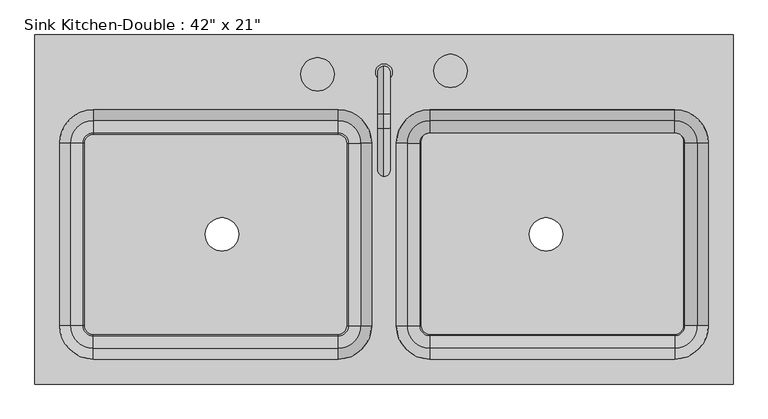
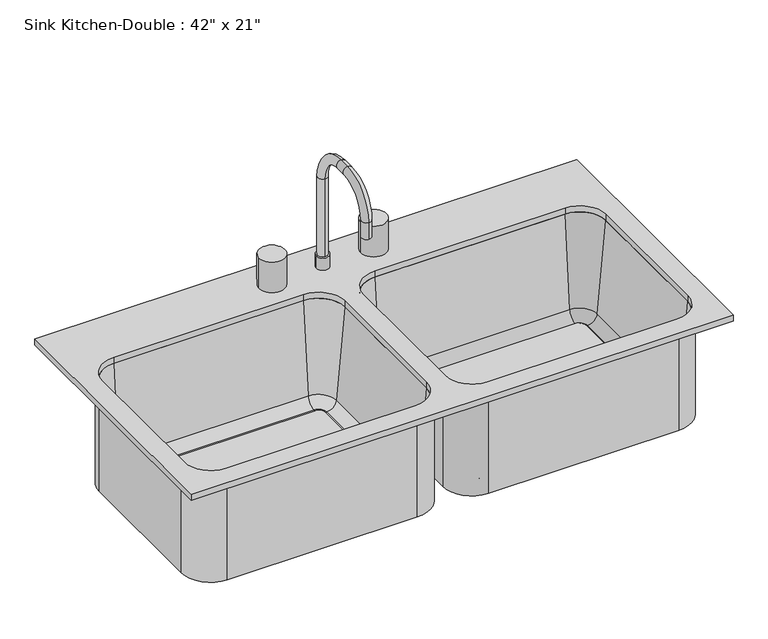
"""IFC4 building model written with IfcOpenShell, lengths in millimetres: flow terminal geometry."""

from ifc_helpers import new_model, si_unit, point, frame, frame_2d, origin, place, context, project, spatial, polyline, circle_curve, ellipse_curve, trimmed, segment, composite_curve, outline, extrude, source, transform, mapped, element, save
from ifc_brep_helpers import plane_surface, cylinder_surface, revolved_surface, advanced_brep


def flow_terminal_be612caf(model_context):
    return source(origin(), model_context, "Body", "SolidModel", [
        extrude(outline(composite_curve([segment(trimmed(circle_curve(frame_2d((460.1892406, 106.5338193)), 12.7), [point((460.1892406, 119.2338193))], [point((472.8892406, 106.5338193))], False, "CARTESIAN"), True, "CONTINUOUS"), segment(polyline([(472.8892406, 106.5338193), (472.8892406, -175.4545989)]), True, "CONTINUOUS"), segment(trimmed(circle_curve(frame_2d((460.1892406, -175.4545989)), 12.7), [point((472.8892406, -175.4545989))], [point((460.1892406, -188.1545989))], False, "CARTESIAN"), True, "CONTINUOUS"), segment(polyline([(460.1892406, -188.1545989), (85.5392406, -188.1545989)]), True, "CONTINUOUS"), segment(trimmed(circle_curve(frame_2d((85.5392406, -175.4545989)), 12.7), [point((85.5392406, -188.1545989))], [point((72.8392406, -175.4545989))], False, "CARTESIAN"), True, "CONTINUOUS"), segment(polyline([(72.8392406, -175.4545989), (72.8392406, 106.5338193)]), True, "CONTINUOUS"), segment(trimmed(circle_curve(frame_2d((85.5392406, 106.5338193)), 12.7), [point((72.8392406, 106.5338193))], [point((85.5392406, 119.2338193))], False, "CARTESIAN"), True, "CONTINUOUS"), segment(polyline([(85.5392406, 119.2338193), (460.1892406, 119.2338193)]), True, "CONTINUOUS")], self_intersect=False), holes=[composite_curve([segment(trimmed(circle_curve(frame_2d((263.3392406, -35.7545989)), 25.4), [point((237.9392406, -35.7545989))], [point((288.7392406, -35.7545989))], True, "CARTESIAN"), True, "CONTINUOUS"), segment(trimmed(circle_curve(frame_2d((263.3392406, -35.7545989)), 25.4), [point((288.7392406, -35.7545989))], [point((237.9392406, -35.7545989))], True, "CARTESIAN"), True, "CONTINUOUS")], self_intersect=False)]), frame((0.0, 0.0, 698.5), z_axis=(0.0, 0.0, 1.0), x_axis=(1.0, 0.0, 0.0)), (0.0, 0.0, 1.0), 9.525),
        advanced_brep(
        [(34.7392406, 103.9454011, 914.4), (85.5392406, 154.7454011, 914.4), (85.5392406, 161.0954011, 914.4), (28.3892406, 103.9454011, 914.4), (51.2733134, 103.9454011, 725.4146831), (85.5392406, 138.2113283, 725.4146831), (70.2508224, 103.9454011, 708.025), (85.5392406, 119.2338193, 708.025), (72.8392406, 103.9454011, 708.025), (85.5392406, 116.6454011, 708.025), (72.8392406, 103.9454011, 698.5), (85.5392406, 116.6454011, 698.5), (28.3892406, 103.9454011, 698.5), (85.5392406, 161.0954011, 698.5), (28.3892406, -175.4545989, 914.4), (34.7392406, -175.4545989, 914.4), (51.2733134, -175.4545989, 725.4146831), (70.2508224, -175.4545989, 708.025), (72.8392406, -175.4545989, 708.025), (72.8392406, -175.4545989, 698.5), (28.3892406, -175.4545989, 698.5), (85.5392406, -226.2545989, 914.4), (85.5392406, -232.6045989, 914.4), (85.5392406, -209.7205261, 725.4146831), (85.5392406, -190.7430171, 708.025), (85.5392406, -188.1545989, 708.025), (85.5392406, -188.1545989, 698.5), (85.5392406, -232.6045989, 698.5), (460.1892406, -232.6045989, 914.4), (460.1892406, -226.2545989, 914.4), (460.1892406, -209.7205261, 725.4146831), (460.1892406, -190.7430171, 708.025), (460.1892406, -188.1545989, 708.025), (460.1892406, -188.1545989, 698.5), (460.1892406, -232.6045989, 698.5), (510.9892406, -175.4545989, 914.4), (517.3392406, -175.4545989, 914.4), (494.4551678, -175.4545989, 725.4146831), (475.4776588, -175.4545989, 708.025), (472.8892406, -175.4545989, 708.025), (472.8892406, -175.4545989, 698.5), (517.3392406, -175.4545989, 698.5), (517.3392406, 103.9454011, 914.4), (510.9892406, 103.9454011, 914.4), (494.4551678, 103.9454011, 725.4146831), (475.4776588, 103.9454011, 708.025), (472.8892406, 103.9454011, 708.025), (472.8892406, 103.9454011, 698.5), (517.3392406, 103.9454011, 698.5), (460.1892406, 154.7454011, 914.4), (460.1892406, 161.0954011, 914.4), (460.1892406, 138.2113283, 725.4146831), (460.1892406, 119.2338193, 708.025), (460.1892406, 116.6454011, 708.025), (460.1892406, 116.6454011, 698.5), (460.1892406, 161.0954011, 698.5)],
        [
            (0, 1, circle_curve(frame((85.5392406, 103.9454011, 914.4), z_axis=(0.0, 0.0, -1.0), x_axis=(0.0, 1.0, 0.0)), 50.8)),
            (1, 2),
            (2, 3, circle_curve(frame((85.5392406, 103.9454011, 914.4), z_axis=(0.0, 0.0, 1.0), x_axis=(0.0, 1.0, 0.0)), 57.15)),
            (3, 0),
            (4, 5, circle_curve(frame((85.5392406, 103.9454011, 725.4146831), z_axis=(0.0, 0.0, -1.0), x_axis=(0.0, 1.0, 0.0)), 34.2659272)),
            (5, 1),
            (0, 4),
            (6, 7, circle_curve(frame((85.5392406, 103.9454011, 708.025), z_axis=(0.0, 0.0, -1.0), x_axis=(0.0, 1.0, 0.0)), 15.2884182)),
            (7, 5, circle_curve(frame((85.5392406, 119.2338193, 727.075), z_axis=(1.0, 0.0, 0.0), x_axis=(0.0, -1.0, 0.0)), 19.05)),
            (4, 6, circle_curve(frame((70.2508224, 103.9454011, 727.075), z_axis=(0.0, -1.0, 0.0), x_axis=(1.0, 0.0, 0.0)), 19.05)),
            (8, 9, circle_curve(frame((85.5392406, 103.9454011, 708.025), z_axis=(0.0, 0.0, -1.0), x_axis=(0.0, 1.0, 0.0)), 12.7)),
            (9, 7),
            (6, 8),
            (10, 11, circle_curve(frame((85.5392406, 103.9454011, 698.5), z_axis=(0.0, 0.0, -1.0), x_axis=(0.0, 1.0, 0.0)), 12.7)),
            (11, 9),
            (8, 10),
            (12, 13, circle_curve(frame((85.5392406, 103.9454011, 698.5), z_axis=(0.0, 0.0, -1.0), x_axis=(0.0, 1.0, 0.0)), 57.15)),
            (13, 11),
            (10, 12),
            (2, 13),
            (12, 3),
            (3, 14),
            (14, 15),
            (15, 0),
            (15, 16),
            (16, 4),
            (16, 17, circle_curve(frame((70.2508224, -175.4545989, 727.075), z_axis=(0.0, -1.0, 0.0), x_axis=(1.0, 0.0, 0.0)), 19.05)),
            (17, 6),
            (17, 18),
            (18, 8),
            (18, 19),
            (19, 10),
            (19, 20),
            (20, 12),
            (20, 14),
            (21, 15, circle_curve(frame((85.5392406, -175.4545989, 914.4), z_axis=(0.0, 0.0, -1.0), x_axis=(-1.0, 0.0, 0.0)), 50.8)),
            (14, 22, circle_curve(frame((85.5392406, -175.4545989, 914.4), z_axis=(0.0, 0.0, 1.0), x_axis=(-1.0, 0.0, 0.0)), 57.15)),
            (22, 21),
            (23, 16, circle_curve(frame((85.5392406, -175.4545989, 725.4146831), z_axis=(0.0, 0.0, -1.0), x_axis=(-1.0, 0.0, 0.0)), 34.2659272)),
            (21, 23),
            (24, 17, circle_curve(frame((85.5392406, -175.4545989, 708.025), z_axis=(0.0, 0.0, -1.0), x_axis=(-1.0, 0.0, 0.0)), 15.2884182)),
            (23, 24, circle_curve(frame((85.5392406, -190.7430171, 727.075), z_axis=(1.0, 0.0, 0.0), x_axis=(0.0, 1.0, 0.0)), 19.05)),
            (25, 18, circle_curve(frame((85.5392406, -175.4545989, 708.025), z_axis=(0.0, 0.0, -1.0), x_axis=(-1.0, 0.0, 0.0)), 12.7)),
            (24, 25),
            (26, 19, circle_curve(frame((85.5392406, -175.4545989, 698.5), z_axis=(0.0, 0.0, -1.0), x_axis=(-1.0, 0.0, 0.0)), 12.7)),
            (25, 26),
            (27, 20, circle_curve(frame((85.5392406, -175.4545989, 698.5), z_axis=(0.0, 0.0, -1.0), x_axis=(-1.0, 0.0, 0.0)), 57.15)),
            (26, 27),
            (27, 22),
            (22, 28),
            (28, 29),
            (29, 21),
            (29, 30),
            (30, 23),
            (30, 31, circle_curve(frame((460.1892406, -190.7430171, 727.075), z_axis=(1.0, 0.0, 0.0), x_axis=(0.0, 1.0, 0.0)), 19.05)),
            (31, 24),
            (31, 32),
            (32, 25),
            (32, 33),
            (33, 26),
            (33, 34),
            (34, 27),
            (34, 28),
            (35, 29, circle_curve(frame((460.1892406, -175.4545989, 914.4), z_axis=(0.0, 0.0, -1.0), x_axis=(0.0, -1.0, 0.0)), 50.8)),
            (28, 36, circle_curve(frame((460.1892406, -175.4545989, 914.4), z_axis=(0.0, 0.0, 1.0), x_axis=(0.0, -1.0, 0.0)), 57.15)),
            (36, 35),
            (37, 30, circle_curve(frame((460.1892406, -175.4545989, 725.4146831), z_axis=(0.0, 0.0, -1.0), x_axis=(0.0, -1.0, 0.0)), 34.2659272)),
            (35, 37),
            (38, 31, circle_curve(frame((460.1892406, -175.4545989, 708.025), z_axis=(0.0, 0.0, -1.0), x_axis=(0.0, -1.0, 0.0)), 15.2884182)),
            (37, 38, circle_curve(frame((475.4776588, -175.4545989, 727.075), z_axis=(0.0, 1.0, 0.0), x_axis=(-1.0, 0.0, 0.0)), 19.05)),
            (39, 32, circle_curve(frame((460.1892406, -175.4545989, 708.025), z_axis=(0.0, 0.0, -1.0), x_axis=(0.0, -1.0, 0.0)), 12.7)),
            (38, 39),
            (40, 33, circle_curve(frame((460.1892406, -175.4545989, 698.5), z_axis=(0.0, 0.0, -1.0), x_axis=(0.0, -1.0, 0.0)), 12.7)),
            (39, 40),
            (41, 34, circle_curve(frame((460.1892406, -175.4545989, 698.5), z_axis=(0.0, 0.0, -1.0), x_axis=(0.0, -1.0, 0.0)), 57.15)),
            (40, 41),
            (41, 36),
            (36, 42),
            (42, 43),
            (43, 35),
            (43, 44),
            (44, 37),
            (44, 45, circle_curve(frame((475.4776588, 103.9454011, 727.075), z_axis=(0.0, 1.0, 0.0), x_axis=(-1.0, 0.0, 0.0)), 19.05)),
            (45, 38),
            (45, 46),
            (46, 39),
            (46, 47),
            (47, 40),
            (47, 48),
            (48, 41),
            (48, 42),
            (49, 43, circle_curve(frame((460.1892406, 103.9454011, 914.4), z_axis=(0.0, 0.0, -1.0), x_axis=(1.0, 0.0, 0.0)), 50.8)),
            (42, 50, circle_curve(frame((460.1892406, 103.9454011, 914.4), z_axis=(0.0, 0.0, 1.0), x_axis=(1.0, 0.0, 0.0)), 57.15)),
            (50, 49),
            (51, 44, circle_curve(frame((460.1892406, 103.9454011, 725.4146831), z_axis=(0.0, 0.0, -1.0), x_axis=(1.0, 0.0, 0.0)), 34.2659272)),
            (49, 51),
            (52, 45, circle_curve(frame((460.1892406, 103.9454011, 708.025), z_axis=(0.0, 0.0, -1.0), x_axis=(1.0, 0.0, 0.0)), 15.2884182)),
            (51, 52, circle_curve(frame((460.1892406, 119.2338193, 727.075), z_axis=(-1.0, 0.0, 0.0), x_axis=(0.0, -1.0, 0.0)), 19.05)),
            (53, 46, circle_curve(frame((460.1892406, 103.9454011, 708.025), z_axis=(0.0, 0.0, -1.0), x_axis=(1.0, 0.0, 0.0)), 12.7)),
            (52, 53),
            (54, 47, circle_curve(frame((460.1892406, 103.9454011, 698.5), z_axis=(0.0, 0.0, -1.0), x_axis=(1.0, 0.0, 0.0)), 12.7)),
            (53, 54),
            (55, 48, circle_curve(frame((460.1892406, 103.9454011, 698.5), z_axis=(0.0, 0.0, -1.0), x_axis=(1.0, 0.0, 0.0)), 57.15)),
            (54, 55),
            (55, 50),
            (50, 2),
            (1, 49),
            (5, 51),
            (7, 52),
            (9, 53),
            (11, 54),
            (13, 55),
        ],
        [
            plane_surface(frame((85.5392406, 103.9454011, 914.4), z_axis=(0.0, 0.0, 1.0), x_axis=(0.0, 1.0, 0.0))),
            revolved_surface(polyline([(85.5392406, 154.7454011, 914.4), (85.5392406, 138.2113283, 725.4146831)]), (85.5392406, 103.9454011, 0.0), (0.0, 0.0, 1.0)),
            revolved_surface(trimmed(ellipse_curve(frame((85.5392406, 119.2338193, 727.075), z_axis=(-1.0, 0.0, 0.0), x_axis=(0.0, -1.0, 0.0)), 19.05, 19.05), [point((85.5392406, 138.2113283, 725.4146831))], [point((85.5392406, 119.2338193, 708.025))], True, "CARTESIAN"), (85.5392406, 103.9454011, 0.0), (0.0, 0.0, 1.0)),
            plane_surface(frame((85.5392406, 103.9454011, 708.025), z_axis=(0.0, 0.0, 1.0), x_axis=(0.0, 1.0, 0.0))),
            revolved_surface(polyline([(85.5392406, 116.6454011, 708.025), (85.5392406, 116.6454011, 698.5)]), (85.5392406, 103.9454011, 0.0), (0.0, 0.0, 1.0)),
            plane_surface(frame((85.5392406, 103.9454011, 698.5), z_axis=(0.0, 0.0, -1.0), x_axis=(0.0, 1.0, 0.0))),
            cylinder_surface(frame((85.5392406, 103.9454011, 0.0), z_axis=(0.0, 0.0, 1.0), x_axis=(0.0, 1.0, 0.0)), 57.15),
            plane_surface(frame((28.3892406, 103.9454011, 914.4), z_axis=(0.0, 0.0, 1.0), x_axis=(0.0, -1.0, 0.0))),
            plane_surface(frame((34.7392406, 103.9454011, 914.4), z_axis=(0.996194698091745, 0.0, 0.08715574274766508), x_axis=(0.0, -1.0, 0.0))),
            revolved_surface(polyline([(89.3008224, -175.45459889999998, 727.075), (89.3008224, 103.9454011, 727.075)]), (70.2508224, 103.9454011, 727.075), (0.0, -1.0, 0.0)),
            plane_surface(frame((70.2508224, 103.9454011, 708.025), z_axis=(0.0, 0.0, 1.0), x_axis=(0.0, -1.0, 0.0))),
            plane_surface(frame((72.8392406, 103.9454011, 708.025), z_axis=(1.0, 0.0, 0.0), x_axis=(0.0, -1.0, 0.0))),
            plane_surface(frame((72.8392406, 103.9454011, 698.5), z_axis=(0.0, 0.0, -1.0), x_axis=(0.0, -1.0, 0.0))),
            plane_surface(frame((28.3892406, 103.9454011, 698.5), z_axis=(-1.0, 0.0, 0.0), x_axis=(0.0, -1.0, 0.0))),
            plane_surface(frame((85.5392406, -175.4545989, 914.4), z_axis=(0.0, 0.0, 1.0), x_axis=(-1.0, 0.0, 0.0))),
            revolved_surface(polyline([(34.7392406, -175.4545989, 914.4), (51.2733134, -175.4545989, 725.4146831)]), (85.5392406, -175.4545989, 0.0), (0.0, 0.0, 1.0)),
            revolved_surface(trimmed(ellipse_curve(frame((70.2508224, -175.4545989, 727.075), z_axis=(0.0, -1.0, 0.0), x_axis=(1.0, 0.0, 0.0)), 19.05, 19.05), [point((51.2733134, -175.4545989, 725.4146831))], [point((70.2508224, -175.4545989, 708.025))], True, "CARTESIAN"), (85.5392406, -175.4545989, 0.0), (0.0, 0.0, 1.0)),
            plane_surface(frame((85.5392406, -175.4545989, 708.025), z_axis=(0.0, 0.0, 1.0), x_axis=(-1.0, 0.0, 0.0))),
            revolved_surface(polyline([(72.8392406, -175.4545989, 708.025), (72.8392406, -175.4545989, 698.5)]), (85.5392406, -175.4545989, 0.0), (0.0, 0.0, 1.0)),
            plane_surface(frame((85.5392406, -175.4545989, 698.5), z_axis=(0.0, 0.0, -1.0), x_axis=(-1.0, 0.0, 0.0))),
            cylinder_surface(frame((85.5392406, -175.4545989, 0.0), z_axis=(0.0, 0.0, 1.0), x_axis=(-1.0, 0.0, 0.0)), 57.15),
            plane_surface(frame((85.5392406, -232.6045989, 914.4), z_axis=(0.0, 0.0, 1.0), x_axis=(1.0, 0.0, 0.0))),
            plane_surface(frame((85.5392406, -226.2545989, 914.4), z_axis=(0.0, 0.996194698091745, 0.08715574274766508), x_axis=(1.0, 0.0, 0.0))),
            revolved_surface(polyline([(460.18924059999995, -171.6930171, 727.075), (85.5392406, -171.6930171, 727.075)]), (85.5392406, -190.7430171, 727.075), (1.0, 0.0, 0.0)),
            plane_surface(frame((85.5392406, -190.7430171, 708.025), z_axis=(0.0, 0.0, 1.0), x_axis=(1.0, 0.0, 0.0))),
            plane_surface(frame((85.5392406, -188.1545989, 708.025), z_axis=(0.0, 1.0, 0.0), x_axis=(1.0, 0.0, 0.0))),
            plane_surface(frame((85.5392406, -188.1545989, 698.5), z_axis=(0.0, 0.0, -1.0), x_axis=(1.0, 0.0, 0.0))),
            plane_surface(frame((85.5392406, -232.6045989, 698.5), z_axis=(0.0, -1.0, 0.0), x_axis=(1.0, 0.0, 0.0))),
            plane_surface(frame((460.1892406, -175.4545989, 914.4), z_axis=(0.0, 0.0, 1.0), x_axis=(0.0, -1.0, 0.0))),
            revolved_surface(polyline([(460.1892406, -226.2545989, 914.4), (460.1892406, -209.7205261, 725.4146831)]), (460.1892406, -175.4545989, 0.0), (0.0, 0.0, 1.0)),
            revolved_surface(trimmed(ellipse_curve(frame((460.1892406, -190.7430171, 727.075), z_axis=(1.0, 0.0, 0.0), x_axis=(0.0, 1.0, 0.0)), 19.05, 19.05), [point((460.1892406, -209.7205261, 725.4146831))], [point((460.1892406, -190.7430171, 708.025))], True, "CARTESIAN"), (460.1892406, -175.4545989, 0.0), (0.0, 0.0, 1.0)),
            plane_surface(frame((460.1892406, -175.4545989, 708.025), z_axis=(0.0, 0.0, 1.0), x_axis=(0.0, -1.0, 0.0))),
            revolved_surface(polyline([(460.1892406, -188.1545989, 708.025), (460.1892406, -188.1545989, 698.5)]), (460.1892406, -175.4545989, 0.0), (0.0, 0.0, 1.0)),
            plane_surface(frame((460.1892406, -175.4545989, 698.5), z_axis=(0.0, 0.0, -1.0), x_axis=(0.0, -1.0, 0.0))),
            cylinder_surface(frame((460.1892406, -175.4545989, 0.0), z_axis=(0.0, 0.0, 1.0), x_axis=(0.0, -1.0, 0.0)), 57.15),
            plane_surface(frame((517.3392406, -175.4545989, 914.4), z_axis=(0.0, 0.0, 1.0), x_axis=(0.0, 1.0, 0.0))),
            plane_surface(frame((510.9892406, -175.4545989, 914.4), z_axis=(-0.996194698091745, 0.0, 0.08715574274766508), x_axis=(0.0, 1.0, 0.0))),
            revolved_surface(polyline([(456.42765879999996, 103.94540109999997, 727.075), (456.42765879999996, -175.4545989, 727.075)]), (475.4776588, -175.4545989, 727.075), (0.0, 1.0, 0.0)),
            plane_surface(frame((475.4776588, -175.4545989, 708.025), z_axis=(0.0, 0.0, 1.0), x_axis=(0.0, 1.0, 0.0))),
            plane_surface(frame((472.8892406, -175.4545989, 708.025), z_axis=(-1.0, 0.0, 0.0), x_axis=(0.0, 1.0, 0.0))),
            plane_surface(frame((472.8892406, -175.4545989, 698.5), z_axis=(0.0, 0.0, -1.0), x_axis=(0.0, 1.0, 0.0))),
            plane_surface(frame((517.3392406, -175.4545989, 698.5), z_axis=(1.0, 0.0, 0.0), x_axis=(0.0, 1.0, 0.0))),
            plane_surface(frame((460.1892406, 103.9454011, 914.4), z_axis=(0.0, 0.0, 1.0), x_axis=(1.0, 0.0, 0.0))),
            revolved_surface(polyline([(510.9892406, 103.9454011, 914.4), (494.4551678, 103.9454011, 725.4146831)]), (460.1892406, 103.9454011, 0.0), (0.0, 0.0, 1.0)),
            revolved_surface(trimmed(ellipse_curve(frame((475.4776588, 103.9454011, 727.075), z_axis=(0.0, 1.0, 0.0), x_axis=(-1.0, 0.0, 0.0)), 19.05, 19.05), [point((494.4551678, 103.9454011, 725.4146831))], [point((475.4776588, 103.9454011, 708.025))], True, "CARTESIAN"), (460.1892406, 103.9454011, 0.0), (0.0, 0.0, 1.0)),
            plane_surface(frame((460.1892406, 103.9454011, 708.025), z_axis=(0.0, 0.0, 1.0), x_axis=(1.0, 0.0, 0.0))),
            revolved_surface(polyline([(472.8892406, 103.9454011, 708.025), (472.8892406, 103.9454011, 698.5)]), (460.1892406, 103.9454011, 0.0), (0.0, 0.0, 1.0)),
            plane_surface(frame((460.1892406, 103.9454011, 698.5), z_axis=(0.0, 0.0, -1.0), x_axis=(1.0, 0.0, 0.0))),
            cylinder_surface(frame((460.1892406, 103.9454011, 0.0), z_axis=(0.0, 0.0, 1.0), x_axis=(1.0, 0.0, 0.0)), 57.15),
            plane_surface(frame((460.1892406, 161.0954011, 914.4), z_axis=(0.0, 0.0, 1.0), x_axis=(-1.0, 0.0, 0.0))),
            plane_surface(frame((460.1892406, 154.7454011, 914.4), z_axis=(0.0, -0.996194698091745, 0.08715574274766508), x_axis=(-1.0, 0.0, 0.0))),
            revolved_surface(polyline([(85.53924060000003, 100.1838193, 727.075), (460.1892406, 100.1838193, 727.075)]), (460.1892406, 119.2338193, 727.075), (-1.0, 0.0, 0.0)),
            plane_surface(frame((460.1892406, 119.2338193, 708.025), z_axis=(0.0, 0.0, 1.0), x_axis=(-1.0, 0.0, 0.0))),
            plane_surface(frame((460.1892406, 116.6454011, 708.025), z_axis=(0.0, -1.0, 0.0), x_axis=(-1.0, 0.0, 0.0))),
            plane_surface(frame((460.1892406, 116.6454011, 698.5), z_axis=(0.0, 0.0, -1.0), x_axis=(-1.0, 0.0, 0.0))),
            plane_surface(frame((460.1892406, 161.0954011, 698.5), z_axis=(0.0, 1.0, 0.0), x_axis=(-1.0, 0.0, 0.0))),
        ],
        [
            (0, [[1, 2, 3, 4]]),
            (1, [[5, 6, -1, 7]]),
            (2, [[8, 9, -5, 10]]),
            (3, [[11, 12, -8, 13]]),
            (4, [[14, 15, -11, 16]]),
            (5, [[17, 18, -14, 19]]),
            (6, [[-3, 20, -17, 21]]),
            (7, [[-4, 22, 23, 24]]),
            (8, [[-7, -24, 25, 26]]),
            (9, [[-10, -26, 27, 28]]),
            (10, [[-13, -28, 29, 30]]),
            (11, [[-16, -30, 31, 32]]),
            (12, [[-19, -32, 33, 34]]),
            (13, [[-21, -34, 35, -22]]),
            (14, [[36, -23, 37, 38]]),
            (15, [[39, -25, -36, 40]]),
            (16, [[41, -27, -39, 42]]),
            (17, [[43, -29, -41, 44]]),
            (18, [[45, -31, -43, 46]]),
            (19, [[47, -33, -45, 48]]),
            (20, [[-37, -35, -47, 49]]),
            (21, [[-38, 50, 51, 52]]),
            (22, [[-40, -52, 53, 54]]),
            (23, [[-42, -54, 55, 56]]),
            (24, [[-44, -56, 57, 58]]),
            (25, [[-46, -58, 59, 60]]),
            (26, [[-48, -60, 61, 62]]),
            (27, [[-49, -62, 63, -50]]),
            (28, [[64, -51, 65, 66]]),
            (29, [[67, -53, -64, 68]]),
            (30, [[69, -55, -67, 70]]),
            (31, [[71, -57, -69, 72]]),
            (32, [[73, -59, -71, 74]]),
            (33, [[75, -61, -73, 76]]),
            (34, [[-65, -63, -75, 77]]),
            (35, [[-66, 78, 79, 80]]),
            (36, [[-68, -80, 81, 82]]),
            (37, [[-70, -82, 83, 84]]),
            (38, [[-72, -84, 85, 86]]),
            (39, [[-74, -86, 87, 88]]),
            (40, [[-76, -88, 89, 90]]),
            (41, [[-77, -90, 91, -78]]),
            (42, [[92, -79, 93, 94]]),
            (43, [[95, -81, -92, 96]]),
            (44, [[97, -83, -95, 98]]),
            (45, [[99, -85, -97, 100]]),
            (46, [[101, -87, -99, 102]]),
            (47, [[103, -89, -101, 104]]),
            (48, [[-93, -91, -103, 105]]),
            (49, [[-94, 106, -2, 107]]),
            (50, [[-96, -107, -6, 108]]),
            (51, [[-98, -108, -9, 109]]),
            (52, [[-100, -109, -12, 110]]),
            (53, [[-102, -110, -15, 111]]),
            (54, [[-104, -111, -18, 112]]),
            (55, [[-105, -112, -20, -106]]),
        ],
    ),
        extrude(outline(composite_curve([segment(trimmed(circle_curve(frame_2d((15.6892406, 211.8954011)), 12.7), [point((2.9892406, 211.8954011))], [point((28.3892406, 211.8954011))], False, "CARTESIAN"), True, "CONTINUOUS"), segment(trimmed(circle_curve(frame_2d((15.6892406, 211.8954011)), 12.7), [point((28.3892406, 211.8954011))], [point((2.9892406, 211.8954011))], False, "CARTESIAN"), True, "CONTINUOUS")], self_intersect=False)), frame((0.0, 0.0, 927.1), z_axis=(0.0, 0.0, 1.0), x_axis=(1.0, 0.0, 0.0)), (0.0, 0.0, 1.0), 25.4),
        advanced_brep(
        [(15.6892406, 221.4204011, 927.1), (15.6892406, 202.3704011, 927.1), (15.6892406, 221.4204011, 1114.425), (15.6892406, 202.3704011, 1114.425), (15.6892406, 148.3954011, 1168.4), (15.6892406, 148.3954011, 1187.45), (15.6892406, 126.1704011, 1187.45), (15.6892406, 126.1704011, 1168.4), (15.6892406, 72.1954011, 1114.425), (15.6892406, 53.1454011, 1114.425), (15.6892406, 53.1454011, 1079.5), (15.6892406, 72.1954011, 1079.5)],
        [
            (0, 1, circle_curve(frame((15.6892406, 211.8954011, 927.1), z_axis=(0.0, 0.0, -1.0), x_axis=(0.0, -1.0, 0.0)), 9.525)),
            (1, 0, circle_curve(frame((15.6892406, 211.8954011, 927.1), z_axis=(0.0, 0.0, -1.0), x_axis=(0.0, -1.0, 0.0)), 9.525)),
            (0, 2),
            (2, 3, circle_curve(frame((15.6892406, 211.8954011, 1114.425), z_axis=(0.0, 0.0, -1.0), x_axis=(0.0, -1.0, 0.0)), 9.525)),
            (3, 1),
            (3, 2, circle_curve(frame((15.6892406, 211.8954011, 1114.425), z_axis=(0.0, 0.0, -1.0), x_axis=(0.0, -1.0, 0.0)), 9.525)),
            (4, 3, circle_curve(frame((15.6892406, 148.3954011, 1114.425), z_axis=(-1.0, 0.0, 0.0), x_axis=(0.0, 1.0, 0.0)), 53.975)),
            (2, 5, circle_curve(frame((15.6892406, 148.3954011, 1114.425), z_axis=(1.0, 0.0, 0.0), x_axis=(0.0, 1.0, 0.0)), 73.025)),
            (5, 4, circle_curve(frame((15.6892406, 148.3954011, 1177.925), z_axis=(0.0, 1.0, 0.0), x_axis=(0.0, 0.0, -1.0)), 9.525)),
            (4, 5, circle_curve(frame((15.6892406, 148.3954011, 1177.925), z_axis=(0.0, 1.0, 0.0), x_axis=(0.0, 0.0, -1.0)), 9.525)),
            (5, 6),
            (6, 7, circle_curve(frame((15.6892406, 126.1704011, 1177.925), z_axis=(0.0, 1.0, 0.0), x_axis=(0.0, 0.0, -1.0)), 9.525)),
            (7, 4),
            (7, 6, circle_curve(frame((15.6892406, 126.1704011, 1177.925), z_axis=(0.0, 1.0, 0.0), x_axis=(0.0, 0.0, -1.0)), 9.525)),
            (8, 7, circle_curve(frame((15.6892406, 126.1704011, 1114.425), z_axis=(-1.0, 0.0, 0.0), x_axis=(0.0, 0.0, 1.0)), 53.975)),
            (6, 9, circle_curve(frame((15.6892406, 126.1704011, 1114.425), z_axis=(1.0, 0.0, 0.0), x_axis=(0.0, 0.0, 1.0)), 73.025)),
            (9, 8, circle_curve(frame((15.6892406, 62.6704011, 1114.425), z_axis=(0.0, 0.0, 1.0), x_axis=(0.0, 1.0, 0.0)), 9.525)),
            (8, 9, circle_curve(frame((15.6892406, 62.6704011, 1114.425), z_axis=(0.0, 0.0, 1.0), x_axis=(0.0, 1.0, 0.0)), 9.525)),
            (10, 11, circle_curve(frame((15.6892406, 62.6704011, 1079.5), z_axis=(0.0, 0.0, -1.0), x_axis=(0.0, 1.0, 0.0)), 9.525)),
            (11, 10, circle_curve(frame((15.6892406, 62.6704011, 1079.5), z_axis=(0.0, 0.0, -1.0), x_axis=(0.0, 1.0, 0.0)), 9.525)),
            (9, 10),
            (11, 8),
        ],
        [
            plane_surface(frame((15.6892406, 202.3704011, 927.1), z_axis=(0.0, 0.0, -1.0), x_axis=(1.0, 0.0, 0.0))),
            cylinder_surface(frame((15.6892406, 211.8954011, 927.1), z_axis=(0.0, 0.0, -1.0), x_axis=(0.0, -1.0, 0.0)), 9.525),
            revolved_surface(trimmed(ellipse_curve(frame((15.6892406, 211.8954011, 1114.425), z_axis=(0.0, 0.0, -1.0), x_axis=(0.0, -1.0, 0.0)), 9.525, 9.525), [point((15.6892406, 221.4204011, 1114.425))], [point((15.6892406, 202.3704011, 1114.425))], True, "CARTESIAN"), (15.6892406, 148.3954011, 1114.425), (1.0, 0.0, 0.0)),
            revolved_surface(trimmed(ellipse_curve(frame((15.6892406, 211.8954011, 1114.425), z_axis=(0.0, 0.0, -1.0), x_axis=(0.0, -1.0, 0.0)), 9.525, 9.525), [point((15.6892406, 202.3704011, 1114.425))], [point((15.6892406, 221.4204011, 1114.425))], True, "CARTESIAN"), (15.6892406, 148.3954011, 1114.425), (1.0, 0.0, 0.0)),
            cylinder_surface(frame((15.6892406, 148.3954011, 1177.925), z_axis=(0.0, 1.0, 0.0), x_axis=(0.0, 0.0, -1.0)), 9.525),
            revolved_surface(trimmed(ellipse_curve(frame((15.6892406, 126.1704011, 1177.925), z_axis=(0.0, 1.0, 0.0), x_axis=(0.0, 0.0, -1.0)), 9.525, 9.525), [point((15.6892406, 126.1704011, 1187.45))], [point((15.6892406, 126.1704011, 1168.4))], True, "CARTESIAN"), (15.6892406, 126.1704011, 1114.425), (1.0, 0.0, 0.0)),
            revolved_surface(trimmed(ellipse_curve(frame((15.6892406, 126.1704011, 1177.925), z_axis=(0.0, 1.0, 0.0), x_axis=(0.0, 0.0, -1.0)), 9.525, 9.525), [point((15.6892406, 126.1704011, 1168.4))], [point((15.6892406, 126.1704011, 1187.45))], True, "CARTESIAN"), (15.6892406, 126.1704011, 1114.425), (1.0, 0.0, 0.0)),
            plane_surface(frame((15.6892406, 53.1454011, 1079.5), z_axis=(0.0, 0.0, -1.0), x_axis=(-1.0, 0.0, 0.0))),
            cylinder_surface(frame((15.6892406, 62.6704011, 1114.425), z_axis=(0.0, 0.0, 1.0), x_axis=(0.0, 1.0, 0.0)), 9.525),
        ],
        [
            (0, [[1, 2]]),
            (1, [[-1, 3, 4, 5]]),
            (1, [[-2, -5, 6, -3]]),
            (2, [[7, -4, 8, 9]]),
            (3, [[-8, -6, -7, 10]]),
            (4, [[-9, 11, 12, 13]]),
            (4, [[-10, -13, 14, -11]]),
            (5, [[15, -12, 16, 17]]),
            (6, [[-16, -14, -15, 18]]),
            (7, [[19, 20]]),
            (8, [[-17, 21, -20, 22]]),
            (8, [[-18, -22, -19, -21]]),
        ],
    ),
        extrude(outline(composite_curve([segment(trimmed(circle_curve(frame_2d((-85.9107594, 208.8166076)), 25.4), [point((-111.3107594, 208.8166076))], [point((-60.5107594, 208.8166076))], False, "CARTESIAN"), True, "CONTINUOUS"), segment(trimmed(circle_curve(frame_2d((-85.9107594, 208.8166076)), 25.4), [point((-60.5107594, 208.8166076))], [point((-111.3107594, 208.8166076))], False, "CARTESIAN"), True, "CONTINUOUS")], self_intersect=False)), frame((0.0, 0.0, 927.1), z_axis=(0.0, 0.0, 1.0), x_axis=(1.0, 0.0, 0.0)), (0.0, 0.0, 1.0), 63.5),
        extrude(outline(composite_curve([segment(trimmed(circle_curve(frame_2d((117.2892406, 214.0133323)), 25.4), [point((91.8892406, 214.0133323))], [point((142.6892406, 214.0133323))], False, "CARTESIAN"), True, "CONTINUOUS"), segment(trimmed(circle_curve(frame_2d((117.2892406, 214.0133323)), 25.4), [point((142.6892406, 214.0133323))], [point((91.8892406, 214.0133323))], False, "CARTESIAN"), True, "CONTINUOUS")], self_intersect=False)), frame((0.0, 0.0, 927.1), z_axis=(0.0, 0.0, 1.0), x_axis=(1.0, 0.0, 0.0)), (0.0, 0.0, 1.0), 63.5),
        extrude(outline(composite_curve([segment(trimmed(circle_curve(frame_2d((-54.1607594, 103.9454011)), 12.7), [point((-54.1607594, 116.6454011))], [point((-41.4607594, 103.9454011))], False, "CARTESIAN"), True, "CONTINUOUS"), segment(polyline([(-41.4607594, 103.9454011), (-41.4607594, -175.4545989)]), True, "CONTINUOUS"), segment(trimmed(circle_curve(frame_2d((-54.1607594, -175.4545989)), 12.7), [point((-41.4607594, -175.4545989))], [point((-54.1607594, -188.1545989))], False, "CARTESIAN"), True, "CONTINUOUS"), segment(polyline([(-54.1607594, -188.1545989), (-428.8107594, -188.1545989)]), True, "CONTINUOUS"), segment(trimmed(circle_curve(frame_2d((-428.8107594, -175.4545989)), 12.7), [point((-428.8107594, -188.1545989))], [point((-441.5107594, -175.4545989))], False, "CARTESIAN"), True, "CONTINUOUS"), segment(polyline([(-441.5107594, -175.4545989), (-441.5107594, 103.9454011)]), True, "CONTINUOUS"), segment(trimmed(circle_curve(frame_2d((-428.8107594, 103.9454011)), 12.7), [point((-441.5107594, 103.9454011))], [point((-428.8107594, 116.6454011))], False, "CARTESIAN"), True, "CONTINUOUS"), segment(polyline([(-428.8107594, 116.6454011), (-54.1607594, 116.6454011)]), True, "CONTINUOUS")], self_intersect=False), holes=[composite_curve([segment(trimmed(circle_curve(frame_2d((-231.9607594, -35.7545989)), 25.4), [point((-257.3607594, -35.7545989))], [point((-206.5607594, -35.7545989))], True, "CARTESIAN"), True, "CONTINUOUS"), segment(trimmed(circle_curve(frame_2d((-231.9607594, -35.7545989)), 25.4), [point((-206.5607594, -35.7545989))], [point((-257.3607594, -35.7545989))], True, "CARTESIAN"), True, "CONTINUOUS")], self_intersect=False)]), frame((0.0, 0.0, 698.5), z_axis=(0.0, 0.0, 1.0), x_axis=(1.0, 0.0, 0.0)), (0.0, 0.0, 1.0), 9.525),
        advanced_brep(
        [(2.9892406, 103.9454011, 698.5), (-54.1607594, 161.0954011, 698.5), (-54.1607594, 161.0954011, 914.4), (2.9892406, 103.9454011, 914.4), (-41.4607594, 103.9454011, 698.5), (-54.1607594, 116.6454011, 698.5), (-41.4607594, 103.9454011, 708.025), (-54.1607594, 116.6454011, 708.025), (-38.8723412, 103.9454011, 708.025), (-54.1607594, 119.2338193, 708.025), (-19.8948322, 103.9454011, 725.4146831), (-54.1607594, 138.2113283, 725.4146831), (-3.3607594, 103.9454011, 914.4), (-54.1607594, 154.7454011, 914.4), (2.9892406, -175.4545989, 914.4), (2.9892406, -175.4545989, 698.5), (-41.4607594, -175.4545989, 698.5), (-41.4607594, -175.4545989, 708.025), (-38.8723412, -175.4545989, 708.025), (-19.8948322, -175.4545989, 725.4146831), (-3.3607594, -175.4545989, 914.4), (-54.1607594, -232.6045989, 698.5), (-54.1607594, -232.6045989, 914.4), (-54.1607594, -188.1545989, 698.5), (-54.1607594, -188.1545989, 708.025), (-54.1607594, -190.7430171, 708.025), (-54.1607594, -209.7205261, 725.4146831), (-54.1607594, -226.2545989, 914.4), (-428.8107594, -232.6045989, 914.4), (-428.8107594, -232.6045989, 698.5), (-428.8107594, -188.1545989, 698.5), (-428.8107594, -188.1545989, 708.025), (-428.8107594, -190.7430171, 708.025), (-428.8107594, -209.7205261, 725.4146831), (-428.8107594, -226.2545989, 914.4), (-485.9607594, -175.4545989, 698.5), (-485.9607594, -175.4545989, 914.4), (-441.5107594, -175.4545989, 698.5), (-441.5107594, -175.4545989, 708.025), (-444.0991776, -175.4545989, 708.025), (-463.0766866, -175.4545989, 725.4146831), (-479.6107594, -175.4545989, 914.4), (-485.9607594, 103.9454011, 914.4), (-485.9607594, 103.9454011, 698.5), (-441.5107594, 103.9454011, 698.5), (-441.5107594, 103.9454011, 708.025), (-444.0991776, 103.9454011, 708.025), (-463.0766866, 103.9454011, 725.4146831), (-479.6107594, 103.9454011, 914.4), (-428.8107594, 161.0954011, 698.5), (-428.8107594, 161.0954011, 914.4), (-428.8107594, 116.6454011, 698.5), (-428.8107594, 116.6454011, 708.025), (-428.8107594, 119.2338193, 708.025), (-428.8107594, 138.2113283, 725.4146831), (-428.8107594, 154.7454011, 914.4)],
        [
            (0, 1, circle_curve(frame((-54.1607594, 103.9454011, 698.5), z_axis=(0.0, 0.0, 1.0), x_axis=(0.0, 1.0, 0.0)), 57.15)),
            (1, 2),
            (2, 3, circle_curve(frame((-54.1607594, 103.9454011, 914.4), z_axis=(0.0, 0.0, -1.0), x_axis=(0.0, 1.0, 0.0)), 57.15)),
            (3, 0),
            (4, 5, circle_curve(frame((-54.1607594, 103.9454011, 698.5), z_axis=(0.0, 0.0, 1.0), x_axis=(0.0, 1.0, 0.0)), 12.7)),
            (5, 1),
            (0, 4),
            (6, 7, circle_curve(frame((-54.1607594, 103.9454011, 708.025), z_axis=(0.0, 0.0, 1.0), x_axis=(0.0, 1.0, 0.0)), 12.7)),
            (7, 5),
            (4, 6),
            (8, 9, circle_curve(frame((-54.1607594, 103.9454011, 708.025), z_axis=(0.0, 0.0, 1.0), x_axis=(0.0, 1.0, 0.0)), 15.2884182)),
            (9, 7),
            (6, 8),
            (10, 11, circle_curve(frame((-54.1607594, 103.9454011, 725.4146831), z_axis=(0.0, 0.0, 1.0), x_axis=(0.0, 1.0, 0.0)), 34.2659272)),
            (11, 9, circle_curve(frame((-54.1607594, 119.2338193, 727.075), z_axis=(-1.0, 0.0, 0.0), x_axis=(0.0, 1.0, 0.0)), 19.05)),
            (8, 10, circle_curve(frame((-38.8723412, 103.9454011, 727.075), z_axis=(0.0, -1.0, 0.0), x_axis=(1.0, 0.0, 0.0)), 19.05)),
            (12, 13, circle_curve(frame((-54.1607594, 103.9454011, 914.4), z_axis=(0.0, 0.0, 1.0), x_axis=(0.0, 1.0, 0.0)), 50.8)),
            (13, 11),
            (10, 12),
            (2, 13),
            (12, 3),
            (3, 14),
            (14, 15),
            (15, 0),
            (15, 16),
            (16, 4),
            (16, 17),
            (17, 6),
            (17, 18),
            (18, 8),
            (18, 19, circle_curve(frame((-38.8723412, -175.4545989, 727.075), z_axis=(0.0, -1.0, 0.0), x_axis=(1.0, 0.0, 0.0)), 19.05)),
            (19, 10),
            (19, 20),
            (20, 12),
            (20, 14),
            (21, 15, circle_curve(frame((-54.1607594, -175.4545989, 698.5), z_axis=(0.0, 0.0, 1.0), x_axis=(1.0, 0.0, 0.0)), 57.15)),
            (14, 22, circle_curve(frame((-54.1607594, -175.4545989, 914.4), z_axis=(0.0, 0.0, -1.0), x_axis=(1.0, 0.0, 0.0)), 57.15)),
            (22, 21),
            (23, 16, circle_curve(frame((-54.1607594, -175.4545989, 698.5), z_axis=(0.0, 0.0, 1.0), x_axis=(1.0, 0.0, 0.0)), 12.7)),
            (21, 23),
            (24, 17, circle_curve(frame((-54.1607594, -175.4545989, 708.025), z_axis=(0.0, 0.0, 1.0), x_axis=(1.0, 0.0, 0.0)), 12.7)),
            (23, 24),
            (25, 18, circle_curve(frame((-54.1607594, -175.4545989, 708.025), z_axis=(0.0, 0.0, 1.0), x_axis=(1.0, 0.0, 0.0)), 15.2884182)),
            (24, 25),
            (26, 19, circle_curve(frame((-54.1607594, -175.4545989, 725.4146831), z_axis=(0.0, 0.0, 1.0), x_axis=(1.0, 0.0, 0.0)), 34.2659272)),
            (25, 26, circle_curve(frame((-54.1607594, -190.7430171, 727.075), z_axis=(-1.0, 0.0, 0.0), x_axis=(0.0, -1.0, 0.0)), 19.05)),
            (27, 20, circle_curve(frame((-54.1607594, -175.4545989, 914.4), z_axis=(0.0, 0.0, 1.0), x_axis=(1.0, 0.0, 0.0)), 50.8)),
            (26, 27),
            (27, 22),
            (22, 28),
            (28, 29),
            (29, 21),
            (29, 30),
            (30, 23),
            (30, 31),
            (31, 24),
            (31, 32),
            (32, 25),
            (32, 33, circle_curve(frame((-428.8107594, -190.7430171, 727.075), z_axis=(-1.0, 0.0, 0.0), x_axis=(0.0, -1.0, 0.0)), 19.05)),
            (33, 26),
            (33, 34),
            (34, 27),
            (34, 28),
            (35, 29, circle_curve(frame((-428.8107594, -175.4545989, 698.5), z_axis=(0.0, 0.0, 1.0), x_axis=(0.0, -1.0, 0.0)), 57.15)),
            (28, 36, circle_curve(frame((-428.8107594, -175.4545989, 914.4), z_axis=(0.0, 0.0, -1.0), x_axis=(0.0, -1.0, 0.0)), 57.15)),
            (36, 35),
            (37, 30, circle_curve(frame((-428.8107594, -175.4545989, 698.5), z_axis=(0.0, 0.0, 1.0), x_axis=(0.0, -1.0, 0.0)), 12.7)),
            (35, 37),
            (38, 31, circle_curve(frame((-428.8107594, -175.4545989, 708.025), z_axis=(0.0, 0.0, 1.0), x_axis=(0.0, -1.0, 0.0)), 12.7)),
            (37, 38),
            (39, 32, circle_curve(frame((-428.8107594, -175.4545989, 708.025), z_axis=(0.0, 0.0, 1.0), x_axis=(0.0, -1.0, 0.0)), 15.2884182)),
            (38, 39),
            (40, 33, circle_curve(frame((-428.8107594, -175.4545989, 725.4146831), z_axis=(0.0, 0.0, 1.0), x_axis=(0.0, -1.0, 0.0)), 34.2659272)),
            (39, 40, circle_curve(frame((-444.0991776, -175.4545989, 727.075), z_axis=(0.0, 1.0, 0.0), x_axis=(-1.0, 0.0, 0.0)), 19.05)),
            (41, 34, circle_curve(frame((-428.8107594, -175.4545989, 914.4), z_axis=(0.0, 0.0, 1.0), x_axis=(0.0, -1.0, 0.0)), 50.8)),
            (40, 41),
            (41, 36),
            (36, 42),
            (42, 43),
            (43, 35),
            (43, 44),
            (44, 37),
            (44, 45),
            (45, 38),
            (45, 46),
            (46, 39),
            (46, 47, circle_curve(frame((-444.0991776, 103.9454011, 727.075), z_axis=(0.0, 1.0, 0.0), x_axis=(-1.0, 0.0, 0.0)), 19.05)),
            (47, 40),
            (47, 48),
            (48, 41),
            (48, 42),
            (49, 43, circle_curve(frame((-428.8107594, 103.9454011, 698.5), z_axis=(0.0, 0.0, 1.0), x_axis=(-1.0, 0.0, 0.0)), 57.15)),
            (42, 50, circle_curve(frame((-428.8107594, 103.9454011, 914.4), z_axis=(0.0, 0.0, -1.0), x_axis=(-1.0, 0.0, 0.0)), 57.15)),
            (50, 49),
            (51, 44, circle_curve(frame((-428.8107594, 103.9454011, 698.5), z_axis=(0.0, 0.0, 1.0), x_axis=(-1.0, 0.0, 0.0)), 12.7)),
            (49, 51),
            (52, 45, circle_curve(frame((-428.8107594, 103.9454011, 708.025), z_axis=(0.0, 0.0, 1.0), x_axis=(-1.0, 0.0, 0.0)), 12.7)),
            (51, 52),
            (53, 46, circle_curve(frame((-428.8107594, 103.9454011, 708.025), z_axis=(0.0, 0.0, 1.0), x_axis=(-1.0, 0.0, 0.0)), 15.2884182)),
            (52, 53),
            (54, 47, circle_curve(frame((-428.8107594, 103.9454011, 725.4146831), z_axis=(0.0, 0.0, 1.0), x_axis=(-1.0, 0.0, 0.0)), 34.2659272)),
            (53, 54, circle_curve(frame((-428.8107594, 119.2338193, 727.075), z_axis=(1.0, 0.0, 0.0), x_axis=(0.0, 1.0, 0.0)), 19.05)),
            (55, 48, circle_curve(frame((-428.8107594, 103.9454011, 914.4), z_axis=(0.0, 0.0, 1.0), x_axis=(-1.0, 0.0, 0.0)), 50.8)),
            (54, 55),
            (55, 50),
            (50, 2),
            (1, 49),
            (5, 51),
            (7, 52),
            (9, 53),
            (11, 54),
            (13, 55),
        ],
        [
            cylinder_surface(frame((-54.1607594, 103.9454011, 0.0), z_axis=(0.0, 0.0, -1.0), x_axis=(0.0, 1.0, 0.0)), 57.15),
            plane_surface(frame((-54.1607594, 103.9454011, 698.5), z_axis=(0.0, 0.0, -1.0), x_axis=(0.0, 1.0, 0.0))),
            revolved_surface(polyline([(-54.1607594, 116.6454011, 698.5), (-54.1607594, 116.6454011, 708.025)]), (-54.1607594, 103.9454011, 0.0), (0.0, 0.0, -1.0)),
            plane_surface(frame((-54.1607594, 103.9454011, 708.025), z_axis=(0.0, 0.0, 1.0), x_axis=(0.0, 1.0, 0.0))),
            revolved_surface(trimmed(ellipse_curve(frame((-54.1607594, 119.2338193, 727.075), z_axis=(1.0, 0.0, 0.0), x_axis=(0.0, 1.0, 0.0)), 19.05, 19.05), [point((-54.1607594, 119.2338193, 708.025))], [point((-54.1607594, 138.2113283, 725.4146831))], True, "CARTESIAN"), (-54.1607594, 103.9454011, 0.0), (0.0, 0.0, -1.0)),
            revolved_surface(polyline([(-54.1607594, 138.2113283, 725.4146831), (-54.1607594, 154.7454011, 914.4)]), (-54.1607594, 103.9454011, 0.0), (0.0, 0.0, -1.0)),
            plane_surface(frame((-54.1607594, 103.9454011, 914.4), z_axis=(0.0, 0.0, 1.0), x_axis=(0.0, 1.0, 0.0))),
            plane_surface(frame((2.9892406, 103.9454011, 914.4), z_axis=(1.0, 0.0, 0.0), x_axis=(0.0, -1.0, 0.0))),
            plane_surface(frame((2.9892406, 103.9454011, 698.5), z_axis=(0.0, 0.0, -1.0), x_axis=(0.0, -1.0, 0.0))),
            plane_surface(frame((-41.4607594, 103.9454011, 698.5), z_axis=(-1.0, 0.0, 0.0), x_axis=(0.0, -1.0, 0.0))),
            plane_surface(frame((-41.4607594, 103.9454011, 708.025), z_axis=(0.0, 0.0, 1.0), x_axis=(0.0, -1.0, 0.0))),
            revolved_surface(polyline([(-19.8223412, -175.45459889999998, 727.075), (-19.8223412, 103.9454011, 727.075)]), (-38.8723412, 103.9454011, 727.075), (0.0, -1.0, 0.0)),
            plane_surface(frame((-19.8948322, 103.9454011, 725.4146831), z_axis=(-0.9961946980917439, 0.0, 0.08715574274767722), x_axis=(0.0, -1.0, 0.0))),
            plane_surface(frame((-3.3607594, 103.9454011, 914.4), z_axis=(0.0, 0.0, 1.0), x_axis=(0.0, -1.0, 0.0))),
            cylinder_surface(frame((-54.1607594, -175.4545989, 0.0), z_axis=(0.0, 0.0, -1.0), x_axis=(1.0, 0.0, 0.0)), 57.15),
            plane_surface(frame((-54.1607594, -175.4545989, 698.5), z_axis=(0.0, 0.0, -1.0), x_axis=(1.0, 0.0, 0.0))),
            revolved_surface(polyline([(-41.4607594, -175.4545989, 698.5), (-41.4607594, -175.4545989, 708.025)]), (-54.1607594, -175.4545989, 0.0), (0.0, 0.0, -1.0)),
            plane_surface(frame((-54.1607594, -175.4545989, 708.025), z_axis=(0.0, 0.0, 1.0), x_axis=(1.0, 0.0, 0.0))),
            revolved_surface(trimmed(ellipse_curve(frame((-38.8723412, -175.4545989, 727.075), z_axis=(0.0, -1.0, 0.0), x_axis=(1.0, 0.0, 0.0)), 19.05, 19.05), [point((-38.8723412, -175.4545989, 708.025))], [point((-19.8948322, -175.4545989, 725.4146831))], True, "CARTESIAN"), (-54.1607594, -175.4545989, 0.0), (0.0, 0.0, -1.0)),
            revolved_surface(polyline([(-19.8948322, -175.4545989, 725.4146831), (-3.3607594, -175.4545989, 914.4)]), (-54.1607594, -175.4545989, 0.0), (0.0, 0.0, -1.0)),
            plane_surface(frame((-54.1607594, -175.4545989, 914.4), z_axis=(0.0, 0.0, 1.0), x_axis=(1.0, 0.0, 0.0))),
            plane_surface(frame((-54.1607594, -232.6045989, 914.4), z_axis=(0.0, -1.0, 0.0), x_axis=(-1.0, 0.0, 0.0))),
            plane_surface(frame((-54.1607594, -232.6045989, 698.5), z_axis=(0.0, 0.0, -1.0), x_axis=(-1.0, 0.0, 0.0))),
            plane_surface(frame((-54.1607594, -188.1545989, 698.5), z_axis=(0.0, 1.0, 0.0), x_axis=(-1.0, 0.0, 0.0))),
            plane_surface(frame((-54.1607594, -188.1545989, 708.025), z_axis=(0.0, 0.0, 1.0), x_axis=(-1.0, 0.0, 0.0))),
            revolved_surface(polyline([(-428.8107594, -209.79301710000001, 727.075), (-54.1607594, -209.79301710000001, 727.075)]), (-54.1607594, -190.7430171, 727.075), (-1.0, 0.0, 0.0)),
            plane_surface(frame((-54.1607594, -209.7205261, 725.4146831), z_axis=(0.0, 0.9961946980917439, 0.08715574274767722), x_axis=(-1.0, 0.0, 0.0))),
            plane_surface(frame((-54.1607594, -226.2545989, 914.4), z_axis=(0.0, 0.0, 1.0), x_axis=(-1.0, 0.0, 0.0))),
            cylinder_surface(frame((-428.8107594, -175.4545989, 0.0), z_axis=(0.0, 0.0, -1.0), x_axis=(0.0, -1.0, 0.0)), 57.15),
            plane_surface(frame((-428.8107594, -175.4545989, 698.5), z_axis=(0.0, 0.0, -1.0), x_axis=(0.0, -1.0, 0.0))),
            revolved_surface(polyline([(-428.8107594, -188.1545989, 698.5), (-428.8107594, -188.1545989, 708.025)]), (-428.8107594, -175.4545989, 0.0), (0.0, 0.0, -1.0)),
            plane_surface(frame((-428.8107594, -175.4545989, 708.025), z_axis=(0.0, 0.0, 1.0), x_axis=(0.0, -1.0, 0.0))),
            revolved_surface(trimmed(ellipse_curve(frame((-428.8107594, -190.7430171, 727.075), z_axis=(-1.0, 0.0, 0.0), x_axis=(0.0, -1.0, 0.0)), 19.05, 19.05), [point((-428.8107594, -190.7430171, 708.025))], [point((-428.8107594, -209.7205261, 725.4146831))], True, "CARTESIAN"), (-428.8107594, -175.4545989, 0.0), (0.0, 0.0, -1.0)),
            revolved_surface(polyline([(-428.8107594, -209.7205261, 725.4146831), (-428.8107594, -226.2545989, 914.4)]), (-428.8107594, -175.4545989, 0.0), (0.0, 0.0, -1.0)),
            plane_surface(frame((-428.8107594, -175.4545989, 914.4), z_axis=(0.0, 0.0, 1.0), x_axis=(0.0, -1.0, 0.0))),
            plane_surface(frame((-485.9607594, -175.4545989, 914.4), z_axis=(-1.0, 0.0, 0.0), x_axis=(0.0, 1.0, 0.0))),
            plane_surface(frame((-485.9607594, -175.4545989, 698.5), z_axis=(0.0, 0.0, -1.0), x_axis=(0.0, 1.0, 0.0))),
            plane_surface(frame((-441.5107594, -175.4545989, 698.5), z_axis=(1.0, 0.0, 0.0), x_axis=(0.0, 1.0, 0.0))),
            plane_surface(frame((-441.5107594, -175.4545989, 708.025), z_axis=(0.0, 0.0, 1.0), x_axis=(0.0, 1.0, 0.0))),
            revolved_surface(polyline([(-463.14917760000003, 103.94540109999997, 727.075), (-463.14917760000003, -175.4545989, 727.075)]), (-444.0991776, -175.4545989, 727.075), (0.0, 1.0, 0.0)),
            plane_surface(frame((-463.0766866, -175.4545989, 725.4146831), z_axis=(0.9961946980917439, 0.0, 0.08715574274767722), x_axis=(0.0, 1.0, 0.0))),
            plane_surface(frame((-479.6107594, -175.4545989, 914.4), z_axis=(0.0, 0.0, 1.0), x_axis=(0.0, 1.0, 0.0))),
            cylinder_surface(frame((-428.8107594, 103.9454011, 0.0), z_axis=(0.0, 0.0, -1.0), x_axis=(-1.0, 0.0, 0.0)), 57.15),
            plane_surface(frame((-428.8107594, 103.9454011, 698.5), z_axis=(0.0, 0.0, -1.0), x_axis=(-1.0, 0.0, 0.0))),
            revolved_surface(polyline([(-441.5107594, 103.9454011, 698.5), (-441.5107594, 103.9454011, 708.025)]), (-428.8107594, 103.9454011, 0.0), (0.0, 0.0, -1.0)),
            plane_surface(frame((-428.8107594, 103.9454011, 708.025), z_axis=(0.0, 0.0, 1.0), x_axis=(-1.0, 0.0, 0.0))),
            revolved_surface(trimmed(ellipse_curve(frame((-444.0991776, 103.9454011, 727.075), z_axis=(0.0, 1.0, 0.0), x_axis=(-1.0, 0.0, 0.0)), 19.05, 19.05), [point((-444.0991776, 103.9454011, 708.025))], [point((-463.0766866, 103.9454011, 725.4146831))], True, "CARTESIAN"), (-428.8107594, 103.9454011, 0.0), (0.0, 0.0, -1.0)),
            revolved_surface(polyline([(-463.0766866, 103.9454011, 725.4146831), (-479.6107594, 103.9454011, 914.4)]), (-428.8107594, 103.9454011, 0.0), (0.0, 0.0, -1.0)),
            plane_surface(frame((-428.8107594, 103.9454011, 914.4), z_axis=(0.0, 0.0, 1.0), x_axis=(-1.0, 0.0, 0.0))),
            plane_surface(frame((-428.8107594, 161.0954011, 914.4), z_axis=(0.0, 1.0, 0.0), x_axis=(1.0, 0.0, 0.0))),
            plane_surface(frame((-428.8107594, 161.0954011, 698.5), z_axis=(0.0, 0.0, -1.0), x_axis=(1.0, 0.0, 0.0))),
            plane_surface(frame((-428.8107594, 116.6454011, 698.5), z_axis=(0.0, -1.0, 0.0), x_axis=(1.0, 0.0, 0.0))),
            plane_surface(frame((-428.8107594, 116.6454011, 708.025), z_axis=(0.0, 0.0, 1.0), x_axis=(1.0, 0.0, 0.0))),
            revolved_surface(polyline([(-54.16075940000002, 138.2838193, 727.075), (-428.8107594, 138.2838193, 727.075)]), (-428.8107594, 119.2338193, 727.075), (1.0, 0.0, 0.0)),
            plane_surface(frame((-428.8107594, 138.2113283, 725.4146831), z_axis=(0.0, -0.9961946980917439, 0.08715574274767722), x_axis=(1.0, 0.0, 0.0))),
            plane_surface(frame((-428.8107594, 154.7454011, 914.4), z_axis=(0.0, 0.0, 1.0), x_axis=(1.0, 0.0, 0.0))),
        ],
        [
            (0, [[1, 2, 3, 4]]),
            (1, [[5, 6, -1, 7]]),
            (2, [[8, 9, -5, 10]]),
            (3, [[11, 12, -8, 13]]),
            (4, [[14, 15, -11, 16]]),
            (5, [[17, 18, -14, 19]]),
            (6, [[-3, 20, -17, 21]]),
            (7, [[-4, 22, 23, 24]]),
            (8, [[-7, -24, 25, 26]]),
            (9, [[-10, -26, 27, 28]]),
            (10, [[-13, -28, 29, 30]]),
            (11, [[-16, -30, 31, 32]]),
            (12, [[-19, -32, 33, 34]]),
            (13, [[-21, -34, 35, -22]]),
            (14, [[36, -23, 37, 38]]),
            (15, [[39, -25, -36, 40]]),
            (16, [[41, -27, -39, 42]]),
            (17, [[43, -29, -41, 44]]),
            (18, [[45, -31, -43, 46]]),
            (19, [[47, -33, -45, 48]]),
            (20, [[-37, -35, -47, 49]]),
            (21, [[-38, 50, 51, 52]]),
            (22, [[-40, -52, 53, 54]]),
            (23, [[-42, -54, 55, 56]]),
            (24, [[-44, -56, 57, 58]]),
            (25, [[-46, -58, 59, 60]]),
            (26, [[-48, -60, 61, 62]]),
            (27, [[-49, -62, 63, -50]]),
            (28, [[64, -51, 65, 66]]),
            (29, [[67, -53, -64, 68]]),
            (30, [[69, -55, -67, 70]]),
            (31, [[71, -57, -69, 72]]),
            (32, [[73, -59, -71, 74]]),
            (33, [[75, -61, -73, 76]]),
            (34, [[-65, -63, -75, 77]]),
            (35, [[-66, 78, 79, 80]]),
            (36, [[-68, -80, 81, 82]]),
            (37, [[-70, -82, 83, 84]]),
            (38, [[-72, -84, 85, 86]]),
            (39, [[-74, -86, 87, 88]]),
            (40, [[-76, -88, 89, 90]]),
            (41, [[-77, -90, 91, -78]]),
            (42, [[92, -79, 93, 94]]),
            (43, [[95, -81, -92, 96]]),
            (44, [[97, -83, -95, 98]]),
            (45, [[99, -85, -97, 100]]),
            (46, [[101, -87, -99, 102]]),
            (47, [[103, -89, -101, 104]]),
            (48, [[-93, -91, -103, 105]]),
            (49, [[-94, 106, -2, 107]]),
            (50, [[-96, -107, -6, 108]]),
            (51, [[-98, -108, -9, 109]]),
            (52, [[-100, -109, -12, 110]]),
            (53, [[-102, -110, -15, 111]]),
            (54, [[-104, -111, -18, 112]]),
            (55, [[-105, -112, -20, -106]]),
        ],
    ),
        extrude(outline(polyline([(549.0892406, 269.0454011), (549.0892406, -264.3545989), (-517.7107594, -264.3545989), (-517.7107594, 269.0454011), (549.0892406, 269.0454011)]), holes=[composite_curve([segment(polyline([(-54.1607594, 154.7454011), (-428.8107594, 154.7454011)]), True, "CONTINUOUS"), segment(trimmed(circle_curve(frame_2d((-428.8107594, 103.9454011)), 50.8), [point((-428.8107594, 154.7454011))], [point((-479.6107594, 103.9454011))], True, "CARTESIAN"), True, "CONTINUOUS"), segment(polyline([(-479.6107594, 103.9454011), (-479.6107594, -175.4545989)]), True, "CONTINUOUS"), segment(trimmed(circle_curve(frame_2d((-428.8107594, -175.4545989)), 50.8), [point((-479.6107594, -175.4545989))], [point((-428.8107594, -226.2545989))], True, "CARTESIAN"), True, "CONTINUOUS"), segment(polyline([(-428.8107594, -226.2545989), (-54.1607594, -226.2545989)]), True, "CONTINUOUS"), segment(trimmed(circle_curve(frame_2d((-54.1607594, -175.4545989)), 50.8), [point((-54.1607594, -226.2545989))], [point((-3.3607594, -175.4545989))], True, "CARTESIAN"), True, "CONTINUOUS"), segment(polyline([(-3.3607594, -175.4545989), (-3.3607594, 103.9454011)]), True, "CONTINUOUS"), segment(trimmed(circle_curve(frame_2d((-54.1607594, 103.9454011)), 50.8), [point((-3.3607594, 103.9454011))], [point((-54.1607594, 154.7454011))], True, "CARTESIAN"), True, "CONTINUOUS")], self_intersect=False), composite_curve([segment(polyline([(85.5392406, -226.2545989), (460.1892406, -226.2545989)]), True, "CONTINUOUS"), segment(trimmed(circle_curve(frame_2d((460.1892406, -175.4545989)), 50.8), [point((460.1892406, -226.2545989))], [point((510.9892406, -175.4545989))], True, "CARTESIAN"), True, "CONTINUOUS"), segment(polyline([(510.9892406, -175.4545989), (510.9892406, 103.9454011)]), True, "CONTINUOUS"), segment(trimmed(circle_curve(frame_2d((460.1892406, 103.9454011)), 50.8), [point((510.9892406, 103.9454011))], [point((460.1892406, 154.7454011))], True, "CARTESIAN"), True, "CONTINUOUS"), segment(polyline([(460.1892406, 154.7454011), (85.5392406, 154.7454011)]), True, "CONTINUOUS"), segment(trimmed(circle_curve(frame_2d((85.5392406, 103.9454011)), 50.8), [point((85.5392406, 154.7454011))], [point((34.7392406, 103.9454011))], True, "CARTESIAN"), True, "CONTINUOUS"), segment(polyline([(34.7392406, 103.9454011), (34.7392406, -175.4545989)]), True, "CONTINUOUS"), segment(trimmed(circle_curve(frame_2d((85.5392406, -175.4545989)), 50.8), [point((34.7392406, -175.4545989))], [point((85.5392406, -226.2545989))], True, "CARTESIAN"), True, "CONTINUOUS")], self_intersect=False)]), frame((0.0, 0.0, 914.4), z_axis=(0.0, 0.0, 1.0), x_axis=(1.0, 0.0, 0.0)), (0.0, 0.0, 1.0), 12.7),
    ])


if __name__ == "__main__":
    model = new_model("IFC4")
    model_context = context("Model", 3, world=origin())
    ifc_project = project(units=[si_unit("LENGTHUNIT", "METRE", prefix="MILLI")], contexts=[model_context])
    site = spatial("IfcSite", under=ifc_project)
    building = spatial("IfcBuilding", under=site)
    placement = place(None, origin())
    flow_terminal_shape = flow_terminal_be612caf(model_context)
    element("IfcFlowTerminal", 1, ObjectType="Sink Kitchen-Double : 42\" x 21\"", at=placement, inside=building, context=model_context, shape_type="MappedRepresentation", body=[
        mapped(flow_terminal_shape, transform((0.0, 0.0, 0.0), x_axis=(1.0, 0.0, 0.0), y_axis=(0.0, 1.0, 0.0), z_axis=(0.0, 0.0, 1.0))),
    ])
    save(model, "model.ifc")
